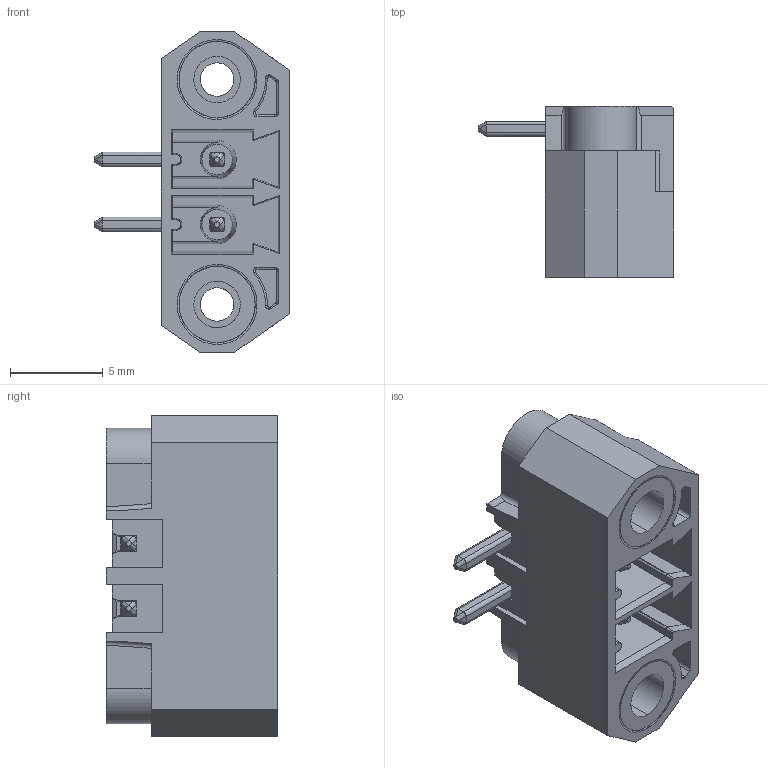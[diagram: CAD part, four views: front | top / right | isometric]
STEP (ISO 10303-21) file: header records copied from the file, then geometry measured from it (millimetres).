
FILE_DESCRIPTION (( 'STEP AP214' ), '1' );
FILE_NAME ('110-M-215-02.STEP', '2007-11-28T20:54:47', ( 'weco' ), ( 'weco' ), 'SwSTEP 2.0', 'SolidWorks 2007', '' );
FILE_SCHEMA (( 'AUTOMOTIVE_DESIGN' ));
Length unit declared in the file: millimetre
Products named in the file (1): 110-M-215-02
Bounding box: 10.5 x 9.2 x 17.3 mm (x, y, z)
Volume: 552.7 mm3; surface area: 1356.9 mm2
Topology: 1 solids, 1 shells, 527 faces, 1483 edges, 950 vertices
Faces by surface type: plane 302, cylinder 151, cone 38, bspline 36
Entity records: 20954 total; most frequent: CARTESIAN_POINT 8641, ORIENTED_EDGE 2950, DIRECTION 1934, EDGE_CURVE 1475, VERTEX_POINT 950, VECTOR 818, LINE 818, B_SPLINE_CURVE_WITH_KNOTS 571
